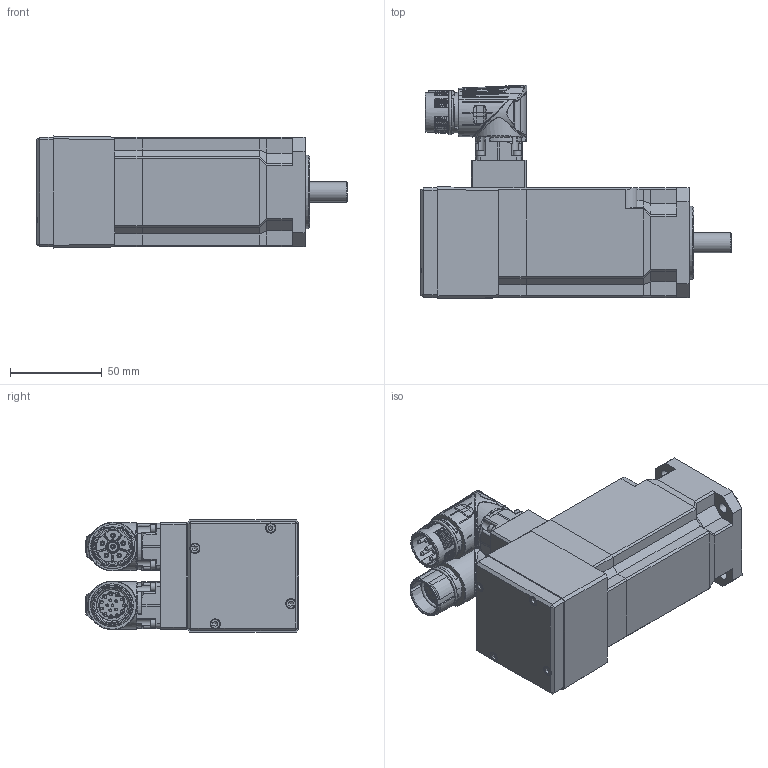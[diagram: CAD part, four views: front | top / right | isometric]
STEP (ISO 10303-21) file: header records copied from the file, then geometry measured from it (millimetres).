
FILE_DESCRIPTION(/* description */ (''),/* implementation_level */ '2;1');
FILE_NAME(/* name */ 'D:\InventorWorkspace2017\CAD\Projekte_EDEM\HLR\Zubehörteile\SMH60601,4811S2I64C72.stp',/* time_stamp */ '2019-02-13T12:22:35+01:00',/* author */ ('544672'),/* organization */ (''),/* preprocessor_version */ 'ST-DEVELOPER v16.5',/* originating_system */ 'Autodesk Inventor 2017',/* authorisation */ '');
FILE_SCHEMA (('AUTOMOTIVE_DESIGN { 1 0 10303 214 3 1 1 }'));
Products named in the file (1): SMH60451,4811S2I64C72
Bounding box: 169.5 x 116.79 x 61.17 mm (x, y, z)
Volume: 585744.9 mm3; surface area: 63518.3 mm2
Topology: 1 solids, 1 shells, 2144 faces, 5316 edges, 3211 vertices
Faces by surface type: cylinder 591, plane 586, bspline 577, cone 170, torus 170, sphere 50
Full cylindrical faces by diameter (mm): 1.2 x15, 2 x6, 2.15 x6, 3.167 x1, 4 x1, 4.333 x1, 4.5 x10, 5.5 x6, 5.9 x2, 11 x1, 12 x1, 19.16 x1, 21.15 x2, 21.6 x2, 21.8 x1, 21.9 x1, 24.4 x1, 25 x1, 28 x1, 40 x1
Entity records: 120368 total; most frequent: CARTESIAN_POINT 71327, ORIENTED_EDGE 10184, DIRECTION 9098, EDGE_CURVE 5092, AXIS2_PLACEMENT_3D 3719, VERTEX_POINT 3158, EDGE_LOOP 2356, ADVANCED_FACE 2140
